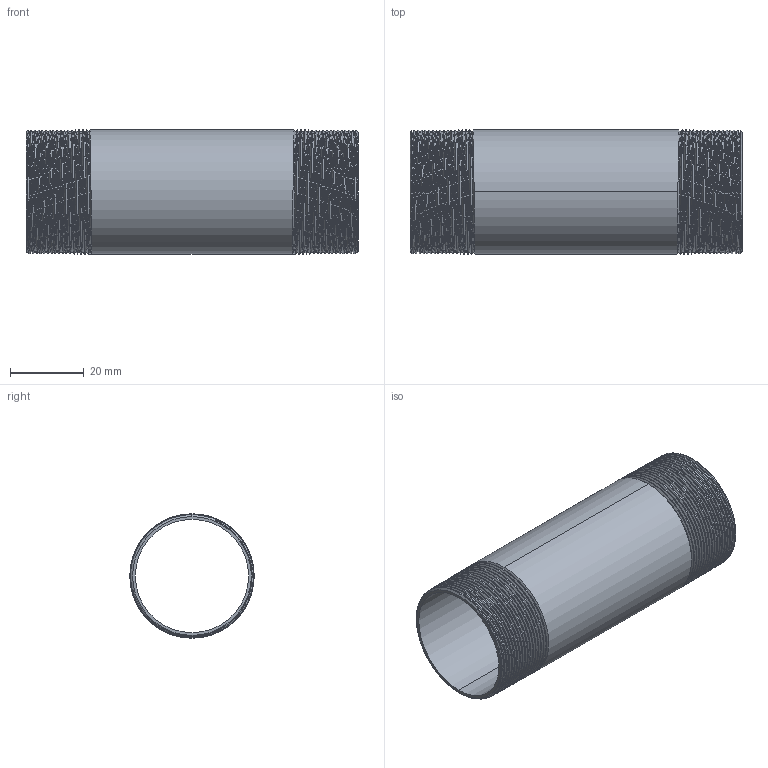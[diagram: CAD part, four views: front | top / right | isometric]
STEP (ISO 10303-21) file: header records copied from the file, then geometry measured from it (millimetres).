
FILE_DESCRIPTION (( 'STEP AP203' ), '1' );
FILE_NAME ('3D_R210_1x90_17185757.STEP', '2024-08-16T11:30:13', ( '' ), ( '' ), 'SwSTEP 2.0', 'SolidWorks 2024', '' );
FILE_SCHEMA (( 'CONFIG_CONTROL_DESIGN' ));
Length unit declared in the file: millimetre
Products named in the file (1): 3D_R210_1x90_17185757
Bounding box: 90 x 33.69 x 33.7 mm (x, y, z)
Volume: 12486.9 mm3; surface area: 20208.9 mm2
Topology: 1 solids, 1 shells, 88 faces, 250 edges, 164 vertices
Faces by surface type: cone 74, bspline 6, cylinder 4, plane 4
Entity records: 15477 total; most frequent: CARTESIAN_POINT 13431, ORIENTED_EDGE 500, DIRECTION 278, EDGE_CURVE 250, VERTEX_POINT 164, B_SPLINE_CURVE_WITH_KNOTS 144, AXIS2_PLACEMENT_3D 97, EDGE_LOOP 90
